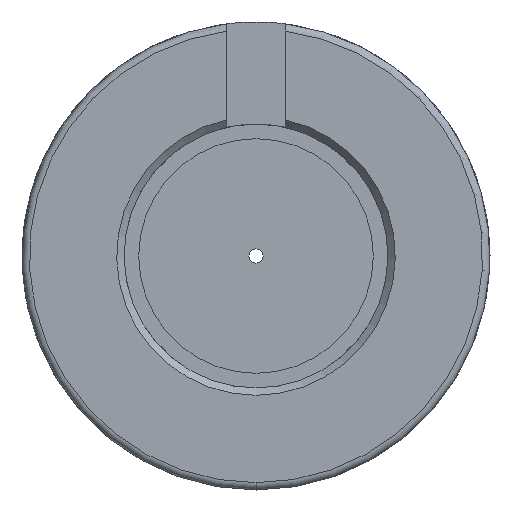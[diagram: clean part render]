
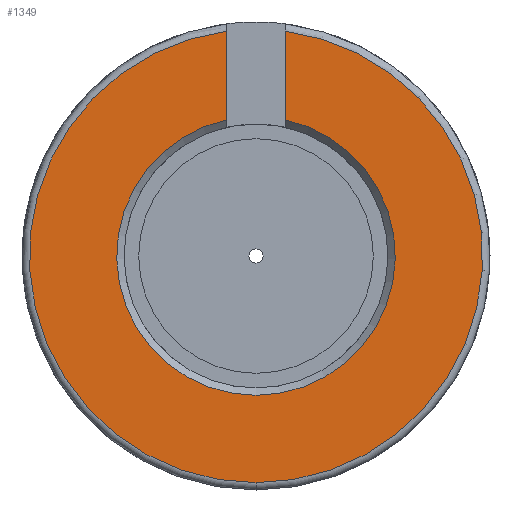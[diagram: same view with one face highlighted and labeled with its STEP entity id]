
A CAD part, left-side view. The second image highlights one B-rep face of the part: STEP entity #1349.
In plain terms, the highlighted planar face has unit normal (-1, 0, 0).
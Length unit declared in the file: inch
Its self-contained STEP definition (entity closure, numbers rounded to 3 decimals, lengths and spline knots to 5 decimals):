
#5 = CARTESIAN_POINT ( 'NONE',  ( -3.45, 0.125, 0.95813 ) ) ;
#13 = ORIENTED_EDGE ( 'NONE', *, *, #1777, .F. ) ;
#15 = DIRECTION ( 'NONE',  ( -1., 0., 0. ) ) ;
#91 = LINE ( 'NONE', #170, #870 ) ;
#170 = CARTESIAN_POINT ( 'NONE',  ( -3.45, -0.125, 0.54844 ) ) ;
#290 = FACE_OUTER_BOUND ( 'NONE', #458, .T. ) ;
#345 = ORIENTED_EDGE ( 'NONE', *, *, #3337, .F. ) ;
#448 = CIRCLE ( 'NONE', #872, 0.96625 ) ;
#458 = EDGE_LOOP ( 'NONE', ( #620, #3351, #3397, #13, #345 ) ) ;
#620 = ORIENTED_EDGE ( 'NONE', *, *, #1441, .F. ) ;
#747 = DIRECTION ( 'NONE',  ( 1., 0., 0. ) ) ;
#870 = VECTOR ( 'NONE', #3228, 39.37008 ) ;
#872 = AXIS2_PLACEMENT_3D ( 'NONE', #2915, #2887, #2894 ) ;
#1099 = EDGE_CURVE ( 'NONE', #1835, #1736, #3747, .T. ) ;
#1215 = CARTESIAN_POINT ( 'NONE',  ( -3.45, 0.96625, 0. ) ) ;
#1349 = ADVANCED_FACE ( 'NONE', ( #290 ), #1971, .T. ) ;
#1441 = EDGE_CURVE ( 'NONE', #2634, #1595, #91, .T. ) ;
#1545 = EDGE_CURVE ( 'NONE', #2634, #1736, #2545, .T. ) ;
#1580 = AXIS2_PLACEMENT_3D ( 'NONE', #1215, #15, #3703 ) ;
#1595 = VERTEX_POINT ( 'NONE', #2865 ) ;
#1718 = AXIS2_PLACEMENT_3D ( 'NONE', #3272, #3256, #3212 ) ;
#1736 = VERTEX_POINT ( 'NONE', #2022 ) ;
#1777 = EDGE_CURVE ( 'NONE', #1867, #1835, #448, .T. ) ;
#1835 = VERTEX_POINT ( 'NONE', #5 ) ;
#1867 = VERTEX_POINT ( 'NONE', #3179 ) ;
#1971 = PLANE ( 'NONE',  #1580 ) ;
#2022 = CARTESIAN_POINT ( 'NONE',  ( -3.45, 0.125, 0.58044 ) ) ;
#2196 = CARTESIAN_POINT ( 'NONE',  ( -3.45, -0.125, 0.58044 ) ) ;
#2400 = CIRCLE ( 'NONE', #3626, 0.96625 ) ;
#2511 = CARTESIAN_POINT ( 'NONE',  ( -3.45, 0., 0. ) ) ;
#2545 = CIRCLE ( 'NONE', #1718, 0.59375 ) ;
#2634 = VERTEX_POINT ( 'NONE', #2196 ) ;
#2824 = DIRECTION ( 'NONE',  ( 0., 0., -1. ) ) ;
#2865 = CARTESIAN_POINT ( 'NONE',  ( -3.45, -0.125, 0.95813 ) ) ;
#2887 = DIRECTION ( 'NONE',  ( 1., 0., 0. ) ) ;
#2894 = DIRECTION ( 'NONE',  ( 0., 0., -1. ) ) ;
#2915 = CARTESIAN_POINT ( 'NONE',  ( -3.45, 0., 0. ) ) ;
#3179 = CARTESIAN_POINT ( 'NONE',  ( -3.45, 0., -0.96625 ) ) ;
#3212 = DIRECTION ( 'NONE',  ( 0., 0., -1. ) ) ;
#3228 = DIRECTION ( 'NONE',  ( 0., 0., 1. ) ) ;
#3242 = VECTOR ( 'NONE', #3633, 39.37008 ) ;
#3256 = DIRECTION ( 'NONE',  ( 1., 0., 0. ) ) ;
#3272 = CARTESIAN_POINT ( 'NONE',  ( -3.45, 0., 0. ) ) ;
#3337 = EDGE_CURVE ( 'NONE', #1595, #1867, #2400, .T. ) ;
#3351 = ORIENTED_EDGE ( 'NONE', *, *, #1545, .T. ) ;
#3397 = ORIENTED_EDGE ( 'NONE', *, *, #1099, .F. ) ;
#3626 = AXIS2_PLACEMENT_3D ( 'NONE', #2511, #747, #2824 ) ;
#3633 = DIRECTION ( 'NONE',  ( 0., 0., -1. ) ) ;
#3646 = CARTESIAN_POINT ( 'NONE',  ( -3.45, 0.125, 0.98964 ) ) ;
#3703 = DIRECTION ( 'NONE',  ( 0., 0., 1. ) ) ;
#3747 = LINE ( 'NONE', #3646, #3242 ) ;
